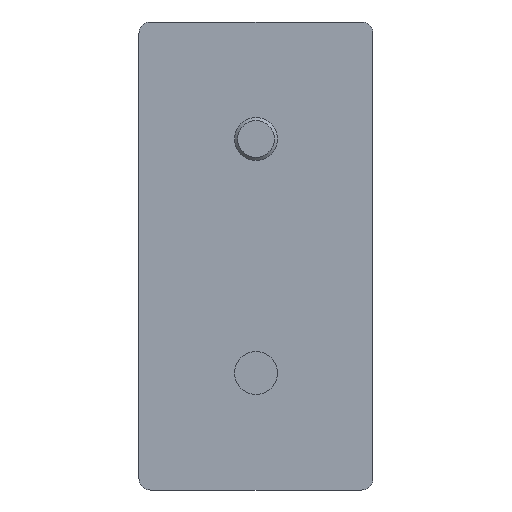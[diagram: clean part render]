
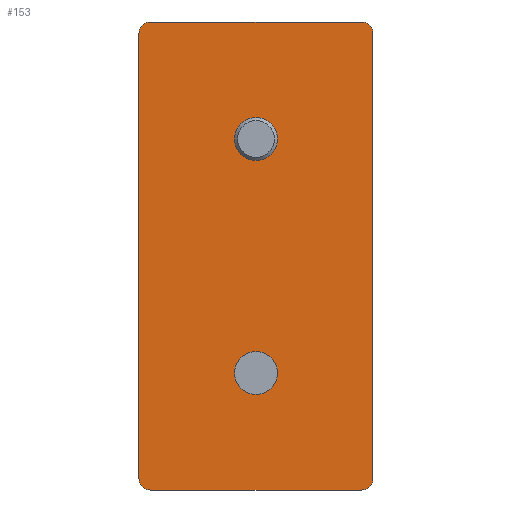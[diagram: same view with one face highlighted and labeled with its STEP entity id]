
A CAD part, front view. The second image highlights one B-rep face of the part: STEP entity #153.
In plain terms, the highlighted planar face has unit normal (0, -1, 0).
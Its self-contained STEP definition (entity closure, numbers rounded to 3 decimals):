
#14 = EDGE_CURVE ( 'NONE', #553, #367, #555, .T. ) ;
#17 = VERTEX_POINT ( 'NONE', #700 ) ;
#53 = FACE_BOUND ( 'NONE', #303, .T. ) ;
#74 = CIRCLE ( 'NONE', #547, 3.65 ) ;
#81 = EDGE_CURVE ( 'NONE', #741, #87, #686, .T. ) ;
#87 = VERTEX_POINT ( 'NONE', #158 ) ;
#105 = DIRECTION ( 'NONE',  ( 1., 0., 0. ) ) ;
#117 = CARTESIAN_POINT ( 'NONE',  ( 20., 0., 38. ) ) ;
#118 = VERTEX_POINT ( 'NONE', #220 ) ;
#132 = DIRECTION ( 'NONE',  ( 0., 0., 1. ) ) ;
#136 = LINE ( 'NONE', #487, #715 ) ;
#138 = CARTESIAN_POINT ( 'NONE',  ( -20., 0., -38. ) ) ;
#141 = ORIENTED_EDGE ( 'NONE', *, *, #81, .F. ) ;
#144 = CIRCLE ( 'NONE', #457, 2. ) ;
#153 = ADVANCED_FACE ( 'NONE', ( #535, #53, #638 ), #273, .F. ) ;
#158 = CARTESIAN_POINT ( 'NONE',  ( 18., 0., 40. ) ) ;
#162 = CARTESIAN_POINT ( 'NONE',  ( 0., 0., 0. ) ) ;
#166 = EDGE_CURVE ( 'NONE', #367, #591, #398, .T. ) ;
#167 = CARTESIAN_POINT ( 'NONE',  ( 0., 0., -40. ) ) ;
#172 = VERTEX_POINT ( 'NONE', #276 ) ;
#184 = AXIS2_PLACEMENT_3D ( 'NONE', #559, #603, #308 ) ;
#196 = EDGE_LOOP ( 'NONE', ( #141, #208, #659, #583, #540, #286, #537, #424 ) ) ;
#201 = CARTESIAN_POINT ( 'NONE',  ( -18., 0., -38. ) ) ;
#208 = ORIENTED_EDGE ( 'NONE', *, *, #567, .T. ) ;
#220 = CARTESIAN_POINT ( 'NONE',  ( 20., 0., -38. ) ) ;
#221 = DIRECTION ( 'NONE',  ( 0., 0., 1. ) ) ;
#222 = CARTESIAN_POINT ( 'NONE',  ( 0., 0., -20. ) ) ;
#235 = LINE ( 'NONE', #315, #646 ) ;
#237 = EDGE_CURVE ( 'NONE', #242, #17, #538, .T. ) ;
#242 = VERTEX_POINT ( 'NONE', #635 ) ;
#244 = ORIENTED_EDGE ( 'NONE', *, *, #486, .T. ) ;
#249 = DIRECTION ( 'NONE',  ( 0., 1., 0. ) ) ;
#251 = ORIENTED_EDGE ( 'NONE', *, *, #237, .F. ) ;
#255 = DIRECTION ( 'NONE',  ( 0., 0., -1. ) ) ;
#273 = PLANE ( 'NONE',  #589 ) ;
#276 = CARTESIAN_POINT ( 'NONE',  ( 0., 0., 23.65 ) ) ;
#279 = VECTOR ( 'NONE', #105, 1000. ) ;
#286 = ORIENTED_EDGE ( 'NONE', *, *, #636, .T. ) ;
#296 = DIRECTION ( 'NONE',  ( 0., -1., 0. ) ) ;
#300 = CIRCLE ( 'NONE', #614, 2. ) ;
#303 = EDGE_LOOP ( 'NONE', ( #244, #333 ) ) ;
#308 = DIRECTION ( 'NONE',  ( 0., 0., 1. ) ) ;
#315 = CARTESIAN_POINT ( 'NONE',  ( 20., 0., 0. ) ) ;
#320 = CARTESIAN_POINT ( 'NONE',  ( 0., 0., 40. ) ) ;
#333 = ORIENTED_EDGE ( 'NONE', *, *, #683, .T. ) ;
#334 = VERTEX_POINT ( 'NONE', #117 ) ;
#335 = DIRECTION ( 'NONE',  ( 0., -1., 0. ) ) ;
#340 = AXIS2_PLACEMENT_3D ( 'NONE', #222, #748, #521 ) ;
#367 = VERTEX_POINT ( 'NONE', #639 ) ;
#374 = AXIS2_PLACEMENT_3D ( 'NONE', #485, #654, #714 ) ;
#376 = EDGE_LOOP ( 'NONE', ( #590, #251 ) ) ;
#380 = AXIS2_PLACEMENT_3D ( 'NONE', #201, #296, #606 ) ;
#381 = DIRECTION ( 'NONE',  ( 0., 0., 1. ) ) ;
#391 = DIRECTION ( 'NONE',  ( 0., 1., 0. ) ) ;
#398 = LINE ( 'NONE', #167, #279 ) ;
#424 = ORIENTED_EDGE ( 'NONE', *, *, #642, .T. ) ;
#428 = CARTESIAN_POINT ( 'NONE',  ( -18., 0., 38. ) ) ;
#439 = AXIS2_PLACEMENT_3D ( 'NONE', #625, #503, #381 ) ;
#457 = AXIS2_PLACEMENT_3D ( 'NONE', #570, #335, #221 ) ;
#461 = EDGE_CURVE ( 'NONE', #17, #242, #511, .T. ) ;
#482 = CARTESIAN_POINT ( 'NONE',  ( 0., 0., 20. ) ) ;
#485 = CARTESIAN_POINT ( 'NONE',  ( 0., 0., -20. ) ) ;
#486 = EDGE_CURVE ( 'NONE', #172, #610, #74, .T. ) ;
#487 = CARTESIAN_POINT ( 'NONE',  ( -20., 0., 0. ) ) ;
#490 = CIRCLE ( 'NONE', #184, 2. ) ;
#503 = DIRECTION ( 'NONE',  ( 0., 1., 0. ) ) ;
#511 = CIRCLE ( 'NONE', #374, 3.65 ) ;
#514 = CARTESIAN_POINT ( 'NONE',  ( -20., 0., 38. ) ) ;
#519 = DIRECTION ( 'NONE',  ( 0., 0., 1. ) ) ;
#521 = DIRECTION ( 'NONE',  ( 0., 0., 1. ) ) ;
#535 = FACE_BOUND ( 'NONE', #376, .T. ) ;
#537 = ORIENTED_EDGE ( 'NONE', *, *, #604, .F. ) ;
#538 = CIRCLE ( 'NONE', #340, 3.65 ) ;
#540 = ORIENTED_EDGE ( 'NONE', *, *, #166, .T. ) ;
#542 = EDGE_CURVE ( 'NONE', #722, #553, #136, .T. ) ;
#547 = AXIS2_PLACEMENT_3D ( 'NONE', #482, #249, #132 ) ;
#550 = CARTESIAN_POINT ( 'NONE',  ( 18., 0., -40. ) ) ;
#553 = VERTEX_POINT ( 'NONE', #138 ) ;
#555 = CIRCLE ( 'NONE', #380, 2. ) ;
#558 = DIRECTION ( 'NONE',  ( 1., 0., 0. ) ) ;
#559 = CARTESIAN_POINT ( 'NONE',  ( 18., 0., -38. ) ) ;
#567 = EDGE_CURVE ( 'NONE', #741, #722, #300, .T. ) ;
#570 = CARTESIAN_POINT ( 'NONE',  ( 18., 0., 38. ) ) ;
#583 = ORIENTED_EDGE ( 'NONE', *, *, #14, .T. ) ;
#589 = AXIS2_PLACEMENT_3D ( 'NONE', #162, #391, #519 ) ;
#590 = ORIENTED_EDGE ( 'NONE', *, *, #461, .F. ) ;
#591 = VERTEX_POINT ( 'NONE', #550 ) ;
#603 = DIRECTION ( 'NONE',  ( 0., -1., 0. ) ) ;
#604 = EDGE_CURVE ( 'NONE', #334, #118, #235, .T. ) ;
#605 = DIRECTION ( 'NONE',  ( 0., -1., 0. ) ) ;
#606 = DIRECTION ( 'NONE',  ( 0., 0., 1. ) ) ;
#610 = VERTEX_POINT ( 'NONE', #670 ) ;
#614 = AXIS2_PLACEMENT_3D ( 'NONE', #428, #605, #719 ) ;
#625 = CARTESIAN_POINT ( 'NONE',  ( 0., 0., 20. ) ) ;
#635 = CARTESIAN_POINT ( 'NONE',  ( 0., 0., -23.65 ) ) ;
#636 = EDGE_CURVE ( 'NONE', #591, #118, #490, .T. ) ;
#638 = FACE_OUTER_BOUND ( 'NONE', #196, .T. ) ;
#639 = CARTESIAN_POINT ( 'NONE',  ( -18., 0., -40. ) ) ;
#642 = EDGE_CURVE ( 'NONE', #334, #87, #144, .T. ) ;
#646 = VECTOR ( 'NONE', #720, 1000. ) ;
#654 = DIRECTION ( 'NONE',  ( 0., -1., 0. ) ) ;
#659 = ORIENTED_EDGE ( 'NONE', *, *, #542, .T. ) ;
#670 = CARTESIAN_POINT ( 'NONE',  ( 0., 0., 16.35 ) ) ;
#680 = CIRCLE ( 'NONE', #439, 3.65 ) ;
#683 = EDGE_CURVE ( 'NONE', #610, #172, #680, .T. ) ;
#686 = LINE ( 'NONE', #320, #704 ) ;
#700 = CARTESIAN_POINT ( 'NONE',  ( 0., 0., -16.35 ) ) ;
#704 = VECTOR ( 'NONE', #558, 1000. ) ;
#714 = DIRECTION ( 'NONE',  ( 0., 0., 1. ) ) ;
#715 = VECTOR ( 'NONE', #255, 1000. ) ;
#719 = DIRECTION ( 'NONE',  ( 0., 0., 1. ) ) ;
#720 = DIRECTION ( 'NONE',  ( 0., 0., -1. ) ) ;
#722 = VERTEX_POINT ( 'NONE', #514 ) ;
#734 = CARTESIAN_POINT ( 'NONE',  ( -18., 0., 40. ) ) ;
#741 = VERTEX_POINT ( 'NONE', #734 ) ;
#748 = DIRECTION ( 'NONE',  ( 0., -1., 0. ) ) ;
